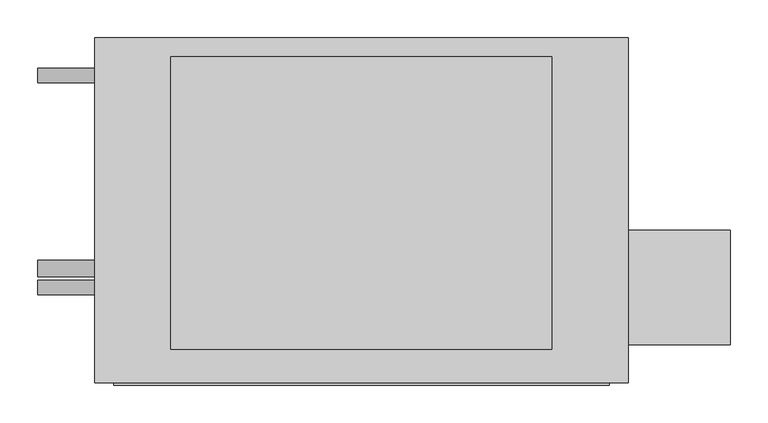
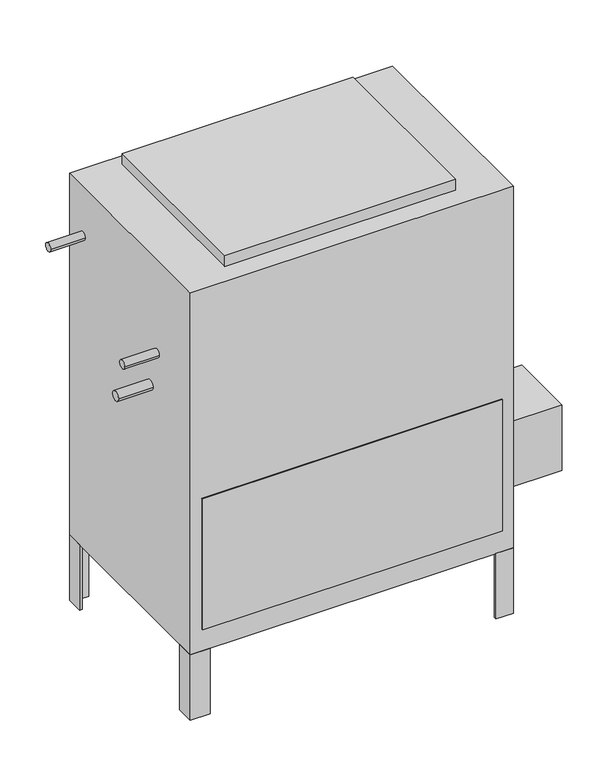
"""IFC4 building model written with IfcOpenShell, lengths in millimetres: proxy geometry, Concealed_High_Capacity_Vertical_Fan_Coil_Unit_-_42DDA_-_CARRIER_-_2-Pipe_Cool-EHeat_LH_2022 : Size 08 - 277v/60Hz/1Ph - 6 Row 6.0kW."""

from ifc_helpers import new_model, si_unit, point, frame, frame_2d, origin, origin_with_axes, place, context, project, spatial, polyline, circle_curve, trimmed, segment, composite_curve, outline, extrude, source, transform, mapped, element, save


def mechanical_equipment_fce51667(model_context):
    return source(origin(), model_context, "Body", "SweptSolid", [
        extrude(outline(polyline([(508.0, -417.5125), (508.0, -265.1125), (644.525, -265.1125), (644.525, -417.5125), (508.0, -417.5125)])), frame((0.0, 0.0, 101.6), z_axis=(0.0, 0.0, 1.0), x_axis=(1.0, 0.0, 0.0)), (0.0, 0.0, 1.0), 152.4),
        extrude(outline(polyline([(508.0, -46.0375), (501.65, -46.0375), (501.65, -14.2875), (469.9, -14.2875), (469.9, -7.9375), (508.0, -7.9375), (508.0, -46.0375)])), frame((0.0, 0.0, -152.4), z_axis=(0.0, 0.0, 1.0), x_axis=(1.0, 0.0, 0.0)), (0.0, 0.0, 1.0), 152.4),
        extrude(outline(polyline([(-165.1, -7.9375), (-165.1, -14.2875), (-196.85, -14.2875), (-196.85, -46.0375), (-203.2, -46.0375), (-203.2, -7.9375), (-165.1, -7.9375)])), frame((0.0, 0.0, -152.4), z_axis=(0.0, 0.0, 1.0), x_axis=(1.0, 0.0, 0.0)), (0.0, 0.0, 1.0), 152.4),
        extrude(outline(polyline([(469.9, -468.3125), (469.9, -461.9625), (501.65, -461.9625), (501.65, -430.2125), (508.0, -430.2125), (508.0, -468.3125), (469.9, -468.3125)])), frame((0.0, 0.0, -152.4), z_axis=(0.0, 0.0, 1.0), x_axis=(1.0, 0.0, 0.0)), (0.0, 0.0, 1.0), 152.4),
        extrude(outline(polyline([(-203.2, -428.1199163), (-196.85, -428.1199163), (-196.85, -461.9625), (-159.7318533, -461.9625), (-159.7318533, -468.3125), (-203.2, -468.3125), (-203.2, -428.1199163)])), frame((0.0, 0.0, -152.4), z_axis=(0.0, 0.0, 1.0), x_axis=(1.0, 0.0, 0.0)), (0.0, 0.0, 1.0), 152.4),
        extrude(outline(polyline([(406.4, -33.3375), (406.4, -423.8625), (-101.6, -423.8625), (-101.6, -33.3375), (406.4, -33.3375)])), frame((0.0, 0.0, 841.375), z_axis=(0.0, 0.0, 1.0), x_axis=(1.0, 0.0, 0.0)), (0.0, 0.0, 1.0), 25.4),
        extrude(outline(polyline([(482.6, -471.4875), (-177.8, -471.4875), (-177.8, -468.3125), (482.6, -468.3125), (482.6, -471.4875)])), frame((0.0, 0.0, 50.8), z_axis=(0.0, 0.0, 1.0), x_axis=(1.0, 0.0, 0.0)), (0.0, 0.0, 1.0), 304.8),
        extrude(outline(composite_curve([segment(trimmed(circle_curve(frame_2d((-58.7375, 727.075)), 9.525), [point((-68.2625, 727.075))], [point((-49.2125, 727.075))], False, "CARTESIAN"), True, "CONTINUOUS"), segment(trimmed(circle_curve(frame_2d((-58.7375, 727.075)), 9.525), [point((-49.2125, 727.075))], [point((-68.2625, 727.075))], False, "CARTESIAN"), True, "CONTINUOUS")], self_intersect=False)), frame((-279.4, 0.0, 0.0), z_axis=(1.0, 0.0, 0.0), x_axis=(0.0, 1.0, 0.0)), (0.0, 0.0, 1.0), 76.2),
        extrude(outline(composite_curve([segment(trimmed(circle_curve(frame_2d((-341.3125, 625.475)), 9.525), [point((-350.8375, 625.475))], [point((-331.7875, 625.475))], False, "CARTESIAN"), True, "CONTINUOUS"), segment(trimmed(circle_curve(frame_2d((-341.3125, 625.475)), 9.525), [point((-331.7875, 625.475))], [point((-350.8375, 625.475))], False, "CARTESIAN"), True, "CONTINUOUS")], self_intersect=False)), frame((-279.4, 0.0, 0.0), z_axis=(1.0, 0.0, 0.0), x_axis=(0.0, 1.0, 0.0)), (0.0, 0.0, 1.0), 76.2),
        extrude(outline(composite_curve([segment(trimmed(circle_curve(frame_2d((-315.9125, 536.575)), 11.1125), [point((-327.025, 536.575))], [point((-304.8, 536.575))], False, "CARTESIAN"), True, "CONTINUOUS"), segment(trimmed(circle_curve(frame_2d((-315.9125, 536.575)), 11.1125), [point((-304.8, 536.575))], [point((-327.025, 536.575))], False, "CARTESIAN"), True, "CONTINUOUS")], self_intersect=False)), frame((-279.4, 0.0, 0.0), z_axis=(1.0, 0.0, 0.0), x_axis=(0.0, 1.0, 0.0)), (0.0, 0.0, 1.0), 76.2),
        extrude(outline(polyline([(508.0, -7.9375), (508.0, -468.3125), (-203.2, -468.3125), (-203.2, -7.9375), (508.0, -7.9375)])), origin_with_axes(), (0.0, 0.0, 1.0), 841.375),
    ])


if __name__ == "__main__":
    model = new_model("IFC4")
    model_context = context("Model", 3, world=origin())
    ifc_project = project(units=[si_unit("LENGTHUNIT", "METRE", prefix="MILLI")], contexts=[model_context])
    site = spatial("IfcSite", under=ifc_project)
    building = spatial("IfcBuilding", under=site)
    placement = place(None, origin())
    mechanical_equipment_shape = mechanical_equipment_fce51667(model_context)
    element("IfcBuildingElementProxy", 1, Name="Concealed_High_Capacity_Vertical_Fan_Coil_Unit_-_42DDA_-_CARRIER_-_2-Pipe_Cool-EHeat_LH_2022 : Size 08 - 277v/60Hz/1Ph - 6 Row 6.0kW", ObjectType="Concealed_High_Capacity_Vertical_Fan_Coil_Unit_-_42DDA_-_CARRIER_-_2-Pipe_Cool-EHeat_LH_2022 : Size 08 - 277v/60Hz/1Ph - 6 Row 6.0kW", at=placement, inside=building, context=model_context, shape_type="MappedRepresentation", body=[
        mapped(mechanical_equipment_shape, transform((0.0, 0.0, 0.0), x_axis=(1.0, 0.0, 0.0), y_axis=(0.0, 1.0, 0.0), z_axis=(0.0, 0.0, 1.0))),
    ])
    save(model, "model.ifc")
